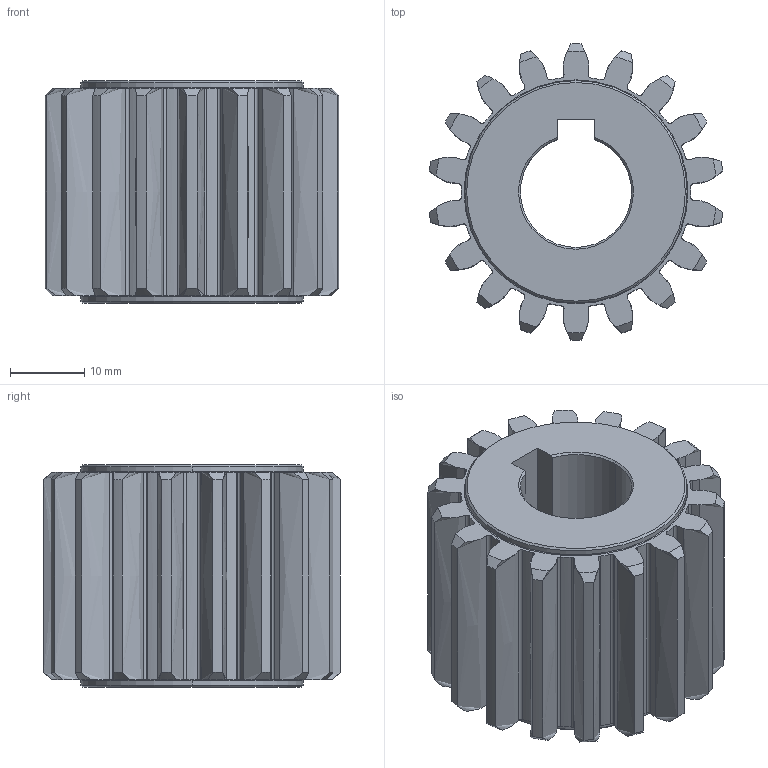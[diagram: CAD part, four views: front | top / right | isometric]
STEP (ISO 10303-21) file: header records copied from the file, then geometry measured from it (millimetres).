
FILE_DESCRIPTION (( 'STEP AP214' ), '1' );
FILE_NAME ('1SG__S020018S.STEP', '2021-08-03T07:25:51', ( '' ), ( '' ), 'SwSTEP 2.0', 'SolidWorks 2021', '' );
FILE_SCHEMA (( 'AUTOMOTIVE_DESIGN' ));
Length unit declared in the file: millimetre
Products named in the file (1): 1SG__S020018S
Bounding box: 39.61 x 40 x 30 mm (x, y, z)
Volume: 23471.5 mm3; surface area: 9726.1 mm2
Topology: 1 solids, 1 shells, 200 faces, 608 edges, 412 vertices
Faces by surface type: cylinder 71, bspline 54, cone 46, plane 25, torus 4
Entity records: 11372 total; most frequent: CARTESIAN_POINT 6093, ORIENTED_EDGE 1216, DIRECTION 982, EDGE_CURVE 608, VERTEX_POINT 412, AXIS2_PLACEMENT_3D 375, LINE 232, VECTOR 232
